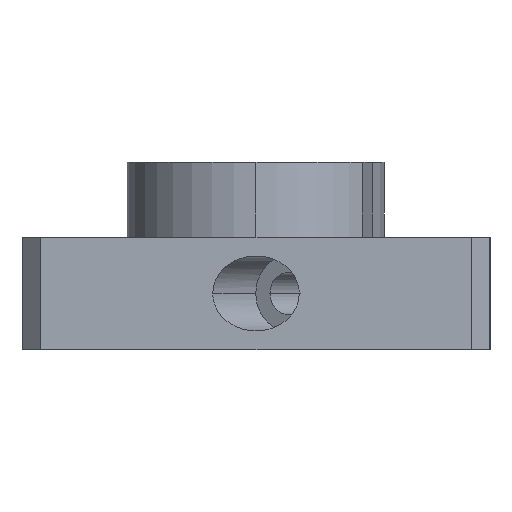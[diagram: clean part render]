
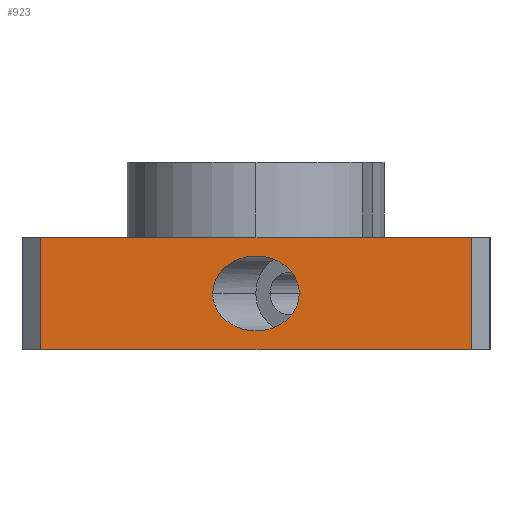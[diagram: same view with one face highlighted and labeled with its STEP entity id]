
A CAD part, left-side view. The second image highlights one B-rep face of the part: STEP entity #923.
In plain terms, the highlighted planar face has unit normal (-1, 0, 0).
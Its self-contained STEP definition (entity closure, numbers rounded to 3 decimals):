
#26 = EDGE_CURVE ( 'NONE', #561, #1081, #1197, .T. ) ;
#42 = PLANE ( 'NONE',  #705 ) ;
#133 =( BOUNDED_CURVE ( )  B_SPLINE_CURVE ( 3, ( #475, #664, #1142, #174 ),
 .UNSPECIFIED., .F., .T. ) 
 B_SPLINE_CURVE_WITH_KNOTS ( ( 4, 4 ),
 ( 3.142, 6.283 ),
 .UNSPECIFIED. ) 
 CURVE ( )  GEOMETRIC_REPRESENTATION_ITEM ( )  RATIONAL_B_SPLINE_CURVE ( ( 1., 0.333, 0.333, 1. ) ) 
 REPRESENTATION_ITEM ( '' )  );
#136 = ORIENTED_EDGE ( 'NONE', *, *, #401, .T. ) ;
#143 = CARTESIAN_POINT ( 'NONE',  ( -25., 25., 10. ) ) ;
#174 = CARTESIAN_POINT ( 'NONE',  ( -25., 4.618, -4. ) ) ;
#176 = LINE ( 'NONE', #280, #1083 ) ;
#187 = ORIENTED_EDGE ( 'NONE', *, *, #1156, .T. ) ;
#203 = CARTESIAN_POINT ( 'NONE',  ( -25., 4.618, -4. ) ) ;
#268 = CARTESIAN_POINT ( 'NONE',  ( -25., 23., -10. ) ) ;
#280 = CARTESIAN_POINT ( 'NONE',  ( -25., 25., -10. ) ) ;
#300 = DIRECTION ( 'NONE',  ( 0., 0., -1. ) ) ;
#306 = CARTESIAN_POINT ( 'NONE',  ( -25., 4.618, 4. ) ) ;
#333 = ORIENTED_EDGE ( 'NONE', *, *, #814, .T. ) ;
#392 = VECTOR ( 'NONE', #300, 1000. ) ;
#401 = EDGE_CURVE ( 'NONE', #589, #702, #133, .T. ) ;
#409 = CARTESIAN_POINT ( 'NONE',  ( -25., -4.62, -4. ) ) ;
#420 = DIRECTION ( 'NONE',  ( 0., 0., 1. ) ) ;
#434 = VERTEX_POINT ( 'NONE', #1043 ) ;
#441 = VERTEX_POINT ( 'NONE', #268 ) ;
#475 = CARTESIAN_POINT ( 'NONE',  ( -25., -4.62, -4. ) ) ;
#478 = CARTESIAN_POINT ( 'NONE',  ( -25., -4.62, 4. ) ) ;
#507 = CARTESIAN_POINT ( 'NONE',  ( -25., 25., 2. ) ) ;
#561 = VERTEX_POINT ( 'NONE', #781 ) ;
#589 = VERTEX_POINT ( 'NONE', #409 ) ;
#626 = FACE_OUTER_BOUND ( 'NONE', #843, .T. ) ;
#627 = EDGE_LOOP ( 'NONE', ( #136, #333 ) ) ;
#645 = ORIENTED_EDGE ( 'NONE', *, *, #822, .T. ) ;
#646 =( BOUNDED_CURVE ( )  B_SPLINE_CURVE ( 3, ( #884, #306, #478, #861 ),
 .UNSPECIFIED., .F., .T. ) 
 B_SPLINE_CURVE_WITH_KNOTS ( ( 4, 4 ),
 ( 0., 3.142 ),
 .UNSPECIFIED. ) 
 CURVE ( )  GEOMETRIC_REPRESENTATION_ITEM ( )  RATIONAL_B_SPLINE_CURVE ( ( 1., 0.333, 0.333, 1. ) ) 
 REPRESENTATION_ITEM ( '' )  );
#664 = CARTESIAN_POINT ( 'NONE',  ( -25., -4.62, -12. ) ) ;
#684 = ORIENTED_EDGE ( 'NONE', *, *, #1121, .T. ) ;
#702 = VERTEX_POINT ( 'NONE', #203 ) ;
#705 = AXIS2_PLACEMENT_3D ( 'NONE', #143, #810, #1108 ) ;
#753 = VECTOR ( 'NONE', #887, 1000. ) ;
#781 = CARTESIAN_POINT ( 'NONE',  ( -25., 23., 2. ) ) ;
#810 = DIRECTION ( 'NONE',  ( 1., 0., 0. ) ) ;
#814 = EDGE_CURVE ( 'NONE', #702, #589, #646, .T. ) ;
#822 = EDGE_CURVE ( 'NONE', #434, #1081, #868, .T. ) ;
#843 = EDGE_LOOP ( 'NONE', ( #684, #645, #1039, #187 ) ) ;
#861 = CARTESIAN_POINT ( 'NONE',  ( -25., -4.62, -4. ) ) ;
#868 = LINE ( 'NONE', #1218, #1097 ) ;
#884 = CARTESIAN_POINT ( 'NONE',  ( -25., 4.618, -4. ) ) ;
#887 = DIRECTION ( 'NONE',  ( 0., -1., 0. ) ) ;
#904 = FACE_BOUND ( 'NONE', #627, .T. ) ;
#923 = ADVANCED_FACE ( 'NONE', ( #904, #626 ), #42, .F. ) ;
#954 = CARTESIAN_POINT ( 'NONE',  ( -25., 23., 10. ) ) ;
#1039 = ORIENTED_EDGE ( 'NONE', *, *, #26, .F. ) ;
#1043 = CARTESIAN_POINT ( 'NONE',  ( -25., -23., -10. ) ) ;
#1052 = LINE ( 'NONE', #954, #392 ) ;
#1067 = DIRECTION ( 'NONE',  ( 0., -1., 0. ) ) ;
#1081 = VERTEX_POINT ( 'NONE', #1177 ) ;
#1083 = VECTOR ( 'NONE', #1067, 1000. ) ;
#1097 = VECTOR ( 'NONE', #420, 1000. ) ;
#1108 = DIRECTION ( 'NONE',  ( 0., 1., 0. ) ) ;
#1121 = EDGE_CURVE ( 'NONE', #441, #434, #176, .T. ) ;
#1142 = CARTESIAN_POINT ( 'NONE',  ( -25., 4.618, -12. ) ) ;
#1156 = EDGE_CURVE ( 'NONE', #561, #441, #1052, .T. ) ;
#1177 = CARTESIAN_POINT ( 'NONE',  ( -25., -23., 2. ) ) ;
#1197 = LINE ( 'NONE', #507, #753 ) ;
#1218 = CARTESIAN_POINT ( 'NONE',  ( -25., -23., 10. ) ) ;
